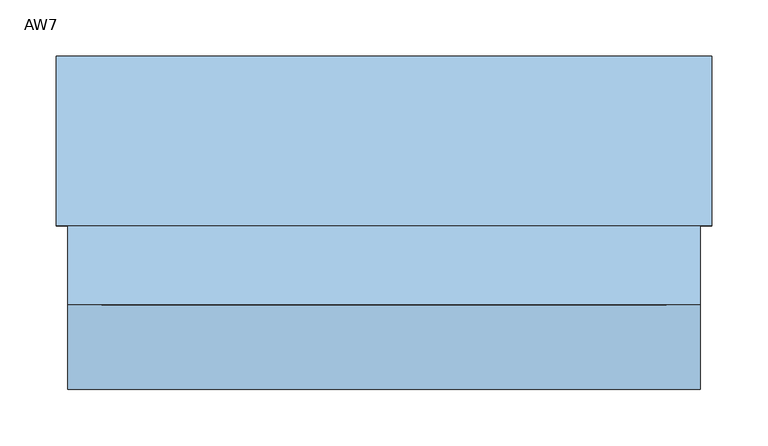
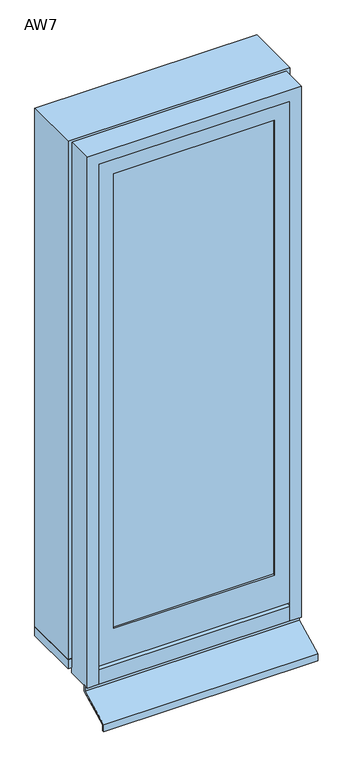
"""IFC4 building model written with IfcOpenShell, lengths in millimetres: window geometry, 営_単窓_縦辷出し : AW7."""

from ifc_helpers import new_model, si_unit, frame, origin, place, context, project, spatial, polyline, outline, extrude, source, transform, mapped, element, save


def aw7_750fac0c(model_context):
    return source(origin(), model_context, "Body", "SweptSolid", [
        extrude(outline(polyline([(210.0, -14.0), (210.0, -19.0), (-210.0, -19.0), (-210.0, -14.0), (210.0, -14.0)])), frame((0.0, 0.0, 1140.0), z_axis=(0.0, 0.0, 1.0), x_axis=(1.0, 0.0, 0.0)), (0.0, 0.0, 1.0), 1255.0),
        extrude(outline(polyline([(2435.0, 250.0), (2435.0, -250.0), (1050.0, -250.0), (1050.0, 250.0), (2435.0, 250.0)]), holes=[polyline([(2395.0, 210.0), (1140.0, 210.0), (1140.0, -210.0), (2395.0, -210.0), (2395.0, 210.0)])]), frame((0.0, -24.0, 0.0), z_axis=(0.0, 1.0, 0.0), x_axis=(0.0, 0.0, 1.0)), (0.0, 0.0, 1.0), 30.0),
        extrude(outline(polyline([(290.0, 195.0), (290.0, 45.0), (-290.0, 45.0), (-290.0, 195.0), (290.0, 195.0)])), frame((0.0, 0.0, 1015.0), z_axis=(0.0, 0.0, 1.0), x_axis=(1.0, 0.0, 0.0)), (0.0, 0.0, 1.0), 25.0),
        extrude(outline(polyline([(-15.0, 985.0), (-15.0, 1000.0), (-10.0, 1000.0), (-10.0, 981.8269723), (-95.0014518, 941.8262891), (-95.0014518, 925.0), (-100.0, 925.0), (-100.0, 945.0), (-15.0, 985.0)])), frame((-280.0, 0.0, 0.0), z_axis=(1.0, 0.0, 0.0), x_axis=(0.0, 1.0, 0.0)), (0.0, 0.0, 1.0), 560.0),
        extrude(outline(polyline([(1015.0, -265.0), (2445.0, -265.0), (2445.0, 265.0), (1015.0, 265.0), (1015.0, 290.0), (2470.0, 290.0), (2470.0, -290.0), (1015.0, -290.0), (1015.0, -265.0)])), frame((0.0, 45.0, 0.0), z_axis=(0.0, 1.0, 0.0), x_axis=(0.0, 0.0, 1.0)), (0.0, 0.0, 1.0), 150.0),
        extrude(outline(polyline([(1000.0, -250.0), (2435.0, -250.0), (2435.0, 250.0), (1000.0, 250.0), (1000.0, 280.0), (2465.0, 280.0), (2465.0, -280.0), (1000.0, -280.0), (1000.0, -250.0)])), frame((0.0, -25.0, 0.0), z_axis=(0.0, 1.0, 0.0), x_axis=(0.0, 0.0, 1.0)), (0.0, 0.0, 1.0), 70.0),
        extrude(outline(polyline([(45.0, 1000.0), (-25.0, 1000.0), (-25.0, 1040.6666667), (45.0, 1050.0), (45.0, 1000.0)])), frame((-250.0, 0.0, 0.0), z_axis=(1.0, 0.0, 0.0), x_axis=(0.0, 1.0, 0.0)), (0.0, 0.0, 1.0), 500.0),
    ])


if __name__ == "__main__":
    model = new_model("IFC4")
    model_context = context("Model", 3, world=origin())
    ifc_project = project(units=[si_unit("LENGTHUNIT", "METRE", prefix="MILLI")], contexts=[model_context])
    site = spatial("IfcSite", under=ifc_project)
    building = spatial("IfcBuilding", under=site)
    placement = place(None, origin())
    aw7_shape = aw7_750fac0c(model_context)
    element("IfcWindow", 1, ObjectType="営_単窓_縦辷出し : AW7", at=placement, inside=building, context=model_context, shape_type="MappedRepresentation", body=[
        mapped(aw7_shape, transform((0.0, 0.0, 0.0), x_axis=(1.0, 0.0, 0.0), y_axis=(0.0, 1.0, 0.0), z_axis=(0.0, 0.0, 1.0))),
    ])
    save(model, "model.ifc")
